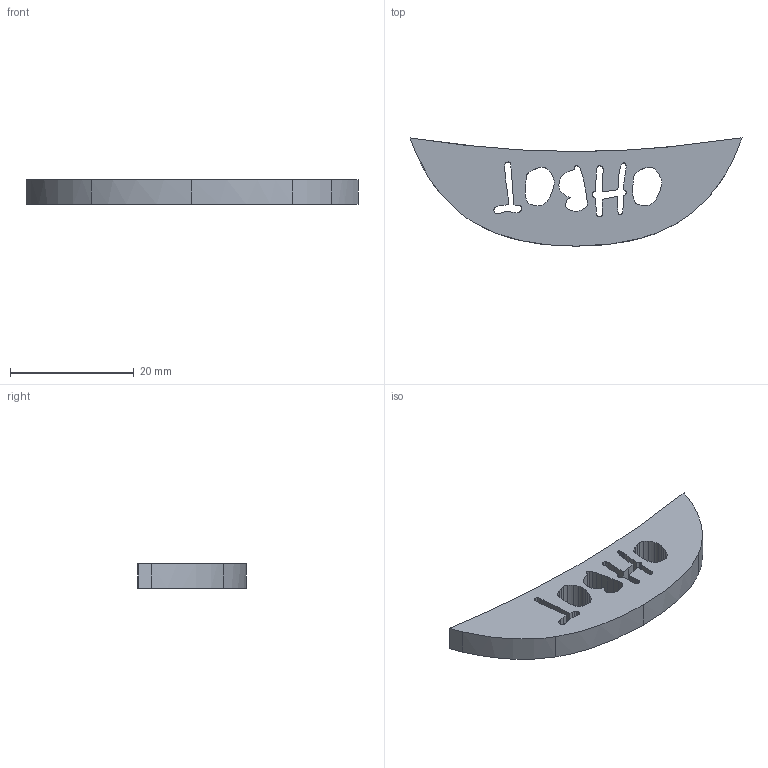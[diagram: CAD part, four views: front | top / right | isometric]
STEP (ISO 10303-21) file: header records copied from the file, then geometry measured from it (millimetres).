
FILE_DESCRIPTION(/* description */ (''),/* implementation_level */ '2;1');
FILE_NAME(/* name */ 'C8_Ohbot Badge.step',/* time_stamp */ '2025-09-23T19:28:26+01:00',/* author */ (''),/* organization */ (''),/* preprocessor_version */ 'ST-DEVELOPER v20.1',/* originating_system */ 'Autodesk Translation Framework v14.17.0.0',/* authorisation */ '');
FILE_SCHEMA (('AUTOMOTIVE_DESIGN { 1 0 10303 214 3 1 1 }'));
Length unit declared in the file: millimetre
Products named in the file (1): C8_Ohbot Badge
Bounding box: 53.59 x 17.48 x 4 mm (x, y, z)
Volume: 2148.8 mm3; surface area: 2041.4 mm2
Topology: 1 solids, 1 shells, 187 faces, 555 edges, 370 vertices
Faces by surface type: bspline 174, cylinder 8, plane 5
Entity records: 6144 total; most frequent: CARTESIAN_POINT 2791, ORIENTED_EDGE 1110, EDGE_CURVE 555, VERTEX_POINT 370, DIRECTION 255, EDGE_LOOP 197, LINE 191, VECTOR 191
